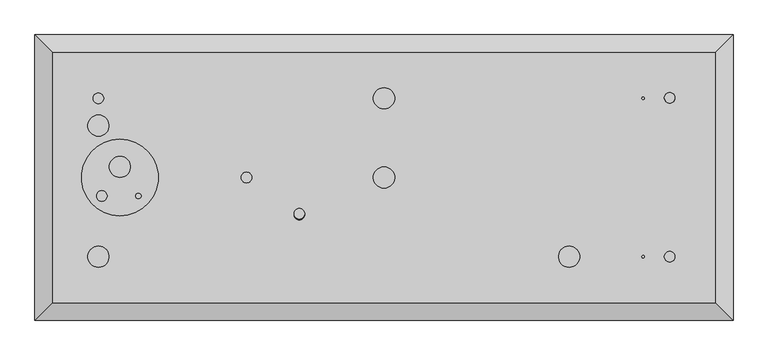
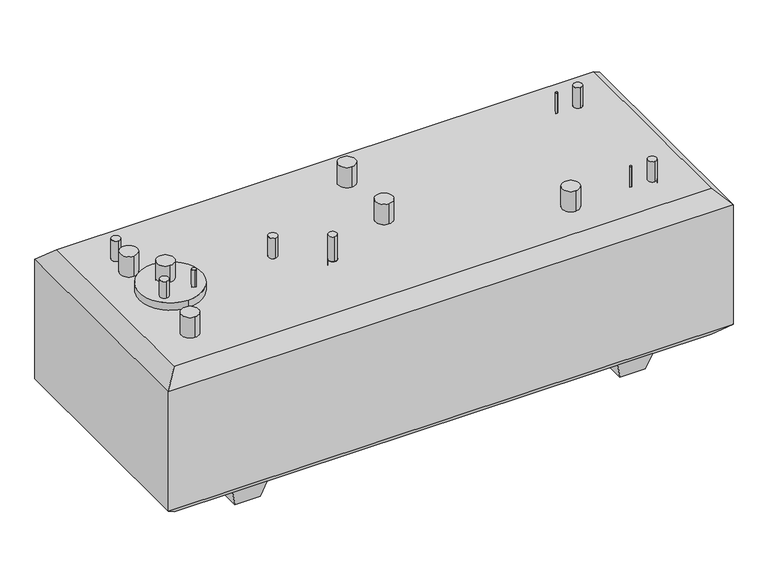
"""IFC4 building model written with IfcOpenShell, lengths in millimetres: proxy geometry, Convault Tank Family 88153104 : Convault Tank Family 88153104."""

from ifc_helpers import new_model, si_unit, point, frame, frame_2d, origin, origin_2d, place, context, project, spatial, polyline, circle_curve, trimmed, segment, composite_curve, outline, extrude, faceted_brep, source, transform, mapped, element, save
from ifc_brep_helpers import plane_surface, cylinder_surface, revolved_surface, advanced_brep


def generic_models_d43cf3dd(model_context):
    return source(origin(), model_context, "Body", "SolidModel", [
        extrude(outline(composite_curve([segment(trimmed(circle_curve(frame_2d((-1268.4125, 0.0)), 184.15), [point((-1268.4125, 184.15))], [point((-1268.4125, -184.15))], False, "CARTESIAN"), True, "CONTINUOUS"), segment(trimmed(circle_curve(frame_2d((-1268.4125, 0.0)), 184.15), [point((-1268.4125, -184.15))], [point((-1268.4125, 184.15))], False, "CARTESIAN"), True, "CONTINUOUS")], self_intersect=False)), frame((0.0, 0.0, 838.2), z_axis=(0.0, 0.0, 1.0), x_axis=(1.0, 0.0, 0.0)), (0.0, 0.0, 1.0), 224.7090569),
        advanced_brep(
        [(-406.4, -200.025, 1168.4), (-406.4, -149.225, 1168.4), (-431.7170956, -176.675529, 838.2), (-406.4, -149.225, 838.2), (-381.0829044, -176.675529, 838.2), (-406.4, -153.3260581, 838.2), (-406.4, -200.025, 1016.0), (-381.0829044, -176.675529, 1016.0), (-431.7170956, -176.675529, 1016.0), (-406.4, -153.3260581, 1016.0)],
        [
            (0, 1, circle_curve(frame((-406.4, -174.625, 1168.4), z_axis=(0.0, 0.0, 1.0), x_axis=(0.0, 1.0, 0.0)), 25.4)),
            (1, 0, circle_curve(frame((-406.4, -174.625, 1168.4), z_axis=(0.0, 0.0, 1.0), x_axis=(0.0, 1.0, 0.0)), 25.4)),
            (2, 3, circle_curve(frame((-406.4, -174.625, 838.2), z_axis=(0.0, 0.0, -1.0), x_axis=(0.0, 1.0, 0.0)), 25.4)),
            (3, 4, circle_curve(frame((-406.4, -174.625, 838.2), z_axis=(0.0, 0.0, -1.0), x_axis=(0.0, 1.0, 0.0)), 25.4)),
            (4, 5, circle_curve(frame((-406.4, -178.7260581, 838.2), z_axis=(0.0, 0.0, 1.0), x_axis=(0.0, -1.0, 0.0)), 25.4)),
            (5, 2, circle_curve(frame((-406.4, -178.7260581, 838.2), z_axis=(0.0, 0.0, 1.0), x_axis=(0.0, -1.0, 0.0)), 25.4)),
            (0, 6),
            (6, 7, circle_curve(frame((-406.4, -174.625, 1016.0), z_axis=(0.0, 0.0, 1.0), x_axis=(0.0, 1.0, 0.0)), 25.4)),
            (7, 4),
            (3, 1),
            (2, 8),
            (8, 6, circle_curve(frame((-406.4, -174.625, 1016.0), z_axis=(0.0, 0.0, 1.0), x_axis=(0.0, 1.0, 0.0)), 25.4)),
            (9, 7, circle_curve(frame((-406.4, -178.7260581, 1016.0), z_axis=(0.0, 0.0, -1.0), x_axis=(0.0, -1.0, 0.0)), 25.4)),
            (8, 9, circle_curve(frame((-406.4, -178.7260581, 1016.0), z_axis=(0.0, 0.0, -1.0), x_axis=(0.0, -1.0, 0.0)), 25.4)),
            (5, 9),
        ],
        [
            plane_surface(frame((-406.4, -149.225, 1168.4), z_axis=(0.0, 0.0, 1.0), x_axis=(-1.0, 0.0, 0.0))),
            plane_surface(frame((-406.4, -149.225, 838.2), z_axis=(0.0, 0.0, -1.0), x_axis=(1.0, 0.0, 0.0))),
            cylinder_surface(frame((-406.4, -174.625, 838.2), z_axis=(0.0, 0.0, 1.0), x_axis=(0.0, 1.0, 0.0)), 25.4),
            plane_surface(frame((-1371.6, 355.6, 1016.0), z_axis=(0.0, 0.0, -1.0), x_axis=(1.0, 0.0, 0.0))),
            revolved_surface(polyline([(-406.4, -204.1260581, 1016.0), (-406.4, -204.1260581, 838.2)]), (-406.4, -178.7260581, 838.2), (0.0, 0.0, 1.0)),
        ],
        [
            (0, [[1, 2]]),
            (1, [[3, 4, 5, 6]]),
            (2, [[-1, 7, 8, 9, -4, 10]]),
            (2, [[-2, -10, -3, 11, 12, -7]]),
            (3, [[13, -8, -12, 14]]),
            (4, [[15, -14, -11, -6]]),
            (4, [[-15, -5, -9, -13]]),
        ],
    ),
        advanced_brep(
        [(-1371.6, 406.4, 1143.0), (-1371.6, 355.6, 1143.0), (-1371.6, 406.4, 1016.0), (-1371.6, 355.6, 1016.0)],
        [
            (0, 1, circle_curve(frame((-1371.6, 381.0, 1143.0), z_axis=(0.0, 0.0, 1.0), x_axis=(0.0, -1.0, 0.0)), 25.4)),
            (1, 0, circle_curve(frame((-1371.6, 381.0, 1143.0), z_axis=(0.0, 0.0, 1.0), x_axis=(0.0, -1.0, 0.0)), 25.4)),
            (0, 2),
            (2, 3, circle_curve(frame((-1371.6, 381.0, 1016.0), z_axis=(0.0, 0.0, 1.0), x_axis=(0.0, -1.0, 0.0)), 25.4)),
            (3, 1),
            (3, 2, circle_curve(frame((-1371.6, 381.0, 1016.0), z_axis=(0.0, 0.0, 1.0), x_axis=(0.0, -1.0, 0.0)), 25.4)),
        ],
        [
            plane_surface(frame((-1371.6, 355.6, 1143.0), z_axis=(0.0, 0.0, 1.0), x_axis=(1.0, 0.0, 0.0))),
            cylinder_surface(frame((-1371.6, 381.0, 838.2), z_axis=(0.0, 0.0, 1.0), x_axis=(0.0, -1.0, 0.0)), 25.4),
            plane_surface(frame((-1371.6, 355.6, 1016.0), z_axis=(0.0, 0.0, -1.0), x_axis=(1.0, 0.0, 0.0))),
        ],
        [
            (0, [[1, 2]]),
            (1, [[-1, 3, 4, 5]]),
            (1, [[-2, -5, 6, -3]]),
            (2, [[-4, -6]]),
        ],
    ),
        advanced_brep(
        [(-1371.6, 300.0375, 1143.0), (-1371.6, 198.4375, 1143.0), (-1371.6, 300.0375, 1016.0), (-1371.6, 198.4375, 1016.0)],
        [
            (0, 1, circle_curve(frame((-1371.6, 249.2375, 1143.0), z_axis=(0.0, 0.0, 1.0), x_axis=(0.0, -1.0, 0.0)), 50.8)),
            (1, 0, circle_curve(frame((-1371.6, 249.2375, 1143.0), z_axis=(0.0, 0.0, 1.0), x_axis=(0.0, -1.0, 0.0)), 50.8)),
            (0, 2),
            (2, 3, circle_curve(frame((-1371.6, 249.2375, 1016.0), z_axis=(0.0, 0.0, 1.0), x_axis=(0.0, -1.0, 0.0)), 50.8)),
            (3, 1),
            (3, 2, circle_curve(frame((-1371.6, 249.2375, 1016.0), z_axis=(0.0, 0.0, 1.0), x_axis=(0.0, -1.0, 0.0)), 50.8)),
        ],
        [
            plane_surface(frame((-1371.6, 355.6, 1143.0), z_axis=(0.0, 0.0, 1.0), x_axis=(1.0, 0.0, 0.0))),
            cylinder_surface(frame((-1371.6, 249.2375, 838.2), z_axis=(0.0, 0.0, 1.0), x_axis=(0.0, -1.0, 0.0)), 50.8),
            plane_surface(frame((-1371.6, 355.6, 1016.0), z_axis=(0.0, 0.0, -1.0), x_axis=(1.0, 0.0, 0.0))),
        ],
        [
            (0, [[1, 2]]),
            (1, [[-1, 3, 4, 5]]),
            (1, [[-2, -5, 6, -3]]),
            (2, [[-4, -6]]),
        ],
    ),
        advanced_brep(
        [(-1371.6, -330.2, 1143.0), (-1371.6, -431.8, 1143.0), (-1371.6, -330.2, 1016.0), (-1371.6, -431.8, 1016.0)],
        [
            (0, 1, circle_curve(frame((-1371.6, -381.0, 1143.0), z_axis=(0.0, 0.0, 1.0), x_axis=(0.0, -1.0, 0.0)), 50.8)),
            (1, 0, circle_curve(frame((-1371.6, -381.0, 1143.0), z_axis=(0.0, 0.0, 1.0), x_axis=(0.0, -1.0, 0.0)), 50.8)),
            (0, 2),
            (2, 3, circle_curve(frame((-1371.6, -381.0, 1016.0), z_axis=(0.0, 0.0, 1.0), x_axis=(0.0, -1.0, 0.0)), 50.8)),
            (3, 1),
            (3, 2, circle_curve(frame((-1371.6, -381.0, 1016.0), z_axis=(0.0, 0.0, 1.0), x_axis=(0.0, -1.0, 0.0)), 50.8)),
        ],
        [
            plane_surface(frame((-1371.6, 355.6, 1143.0), z_axis=(0.0, 0.0, 1.0), x_axis=(1.0, 0.0, 0.0))),
            cylinder_surface(frame((-1371.6, -381.0, 838.2), z_axis=(0.0, 0.0, 1.0), x_axis=(0.0, -1.0, 0.0)), 50.8),
            plane_surface(frame((-1371.6, 355.6, 1016.0), z_axis=(0.0, 0.0, -1.0), x_axis=(1.0, 0.0, 0.0))),
        ],
        [
            (0, [[1, 2]]),
            (1, [[-1, 3, 4, 5]]),
            (1, [[-2, -5, 6, -3]]),
            (2, [[-4, -6]]),
        ],
    ),
        advanced_brep(
        [(-660.4, 25.4, 1143.0), (-660.4, -25.4, 1143.0), (-660.4, 25.4, 1016.0), (-660.4, -25.4, 1016.0)],
        [
            (0, 1, circle_curve(frame((-660.4, 0.0, 1143.0), z_axis=(0.0, 0.0, 1.0), x_axis=(0.0, -1.0, 0.0)), 25.4)),
            (1, 0, circle_curve(frame((-660.4, 0.0, 1143.0), z_axis=(0.0, 0.0, 1.0), x_axis=(0.0, -1.0, 0.0)), 25.4)),
            (0, 2),
            (2, 3, circle_curve(frame((-660.4, 0.0, 1016.0), z_axis=(0.0, 0.0, 1.0), x_axis=(0.0, -1.0, 0.0)), 25.4)),
            (3, 1),
            (3, 2, circle_curve(frame((-660.4, 0.0, 1016.0), z_axis=(0.0, 0.0, 1.0), x_axis=(0.0, -1.0, 0.0)), 25.4)),
        ],
        [
            plane_surface(frame((-1371.6, 355.6, 1143.0), z_axis=(0.0, 0.0, 1.0), x_axis=(1.0, 0.0, 0.0))),
            cylinder_surface(frame((-660.4, 0.0, 838.2), z_axis=(0.0, 0.0, 1.0), x_axis=(0.0, -1.0, 0.0)), 25.4),
            plane_surface(frame((-1371.6, 355.6, 1016.0), z_axis=(0.0, 0.0, -1.0), x_axis=(1.0, 0.0, 0.0))),
        ],
        [
            (0, [[1, 2]]),
            (1, [[-1, 3, 4, 5]]),
            (1, [[-2, -5, 6, -3]]),
            (2, [[-4, -6]]),
        ],
    ),
        advanced_brep(
        [(0.0, 50.8, 1143.0), (0.0, -50.8, 1143.0), (0.0, 50.8, 1016.0), (0.0, -50.8, 1016.0)],
        [
            (0, 1, circle_curve(frame((0.0, 0.0, 1143.0), z_axis=(0.0, 0.0, 1.0), x_axis=(0.0, -1.0, 0.0)), 50.8)),
            (1, 0, circle_curve(frame((0.0, 0.0, 1143.0), z_axis=(0.0, 0.0, 1.0), x_axis=(0.0, -1.0, 0.0)), 50.8)),
            (0, 2),
            (2, 3, circle_curve(frame((0.0, 0.0, 1016.0), z_axis=(0.0, 0.0, 1.0), x_axis=(0.0, -1.0, 0.0)), 50.8)),
            (3, 1),
            (3, 2, circle_curve(frame((0.0, 0.0, 1016.0), z_axis=(0.0, 0.0, 1.0), x_axis=(0.0, -1.0, 0.0)), 50.8)),
        ],
        [
            plane_surface(frame((-1371.6, 355.6, 1143.0), z_axis=(0.0, 0.0, 1.0), x_axis=(1.0, 0.0, 0.0))),
            cylinder_surface(frame((0.0, 0.0, 838.2), z_axis=(0.0, 0.0, 1.0), x_axis=(0.0, -1.0, 0.0)), 50.8),
            plane_surface(frame((-1371.6, 355.6, 1016.0), z_axis=(0.0, 0.0, -1.0), x_axis=(1.0, 0.0, 0.0))),
        ],
        [
            (0, [[1, 2]]),
            (1, [[-1, 3, 4, 5]]),
            (1, [[-2, -5, 6, -3]]),
            (2, [[-4, -6]]),
        ],
    ),
        advanced_brep(
        [(0.0, 431.8, 1143.0), (0.0, 330.2, 1143.0), (0.0, 431.8, 838.2), (0.0, 330.2, 838.2)],
        [
            (0, 1, circle_curve(frame((0.0, 381.0, 1143.0), z_axis=(0.0, 0.0, 1.0), x_axis=(0.0, -1.0, 0.0)), 50.8)),
            (1, 0, circle_curve(frame((0.0, 381.0, 1143.0), z_axis=(0.0, 0.0, 1.0), x_axis=(0.0, -1.0, 0.0)), 50.8)),
            (2, 3, circle_curve(frame((0.0, 381.0, 838.2), z_axis=(0.0, 0.0, -1.0), x_axis=(0.0, -1.0, 0.0)), 50.8)),
            (3, 2, circle_curve(frame((0.0, 381.0, 838.2), z_axis=(0.0, 0.0, -1.0), x_axis=(0.0, -1.0, 0.0)), 50.8)),
            (0, 2),
            (3, 1),
        ],
        [
            plane_surface(frame((-1371.6, 355.6, 1143.0), z_axis=(0.0, 0.0, 1.0), x_axis=(1.0, 0.0, 0.0))),
            plane_surface(frame((-1371.6, 355.6, 838.2), z_axis=(0.0, 0.0, -1.0), x_axis=(-1.0, 0.0, 0.0))),
            cylinder_surface(frame((0.0, 381.0, 838.2), z_axis=(0.0, 0.0, 1.0), x_axis=(0.0, -1.0, 0.0)), 50.8),
        ],
        [
            (0, [[1, 2]]),
            (1, [[3, 4]]),
            (2, [[-1, 5, -4, 6]]),
            (2, [[-2, -6, -3, -5]]),
        ],
    ),
        advanced_brep(
        [(1371.6, -355.6, 1143.0), (1371.6, -406.4, 1143.0), (1371.6, -355.6, 1016.0), (1371.6, -406.4, 1016.0)],
        [
            (0, 1, circle_curve(frame((1371.6, -381.0, 1143.0), z_axis=(0.0, 0.0, 1.0), x_axis=(0.0, -1.0, 0.0)), 25.4)),
            (1, 0, circle_curve(frame((1371.6, -381.0, 1143.0), z_axis=(0.0, 0.0, 1.0), x_axis=(0.0, -1.0, 0.0)), 25.4)),
            (0, 2),
            (2, 3, circle_curve(frame((1371.6, -381.0, 1016.0), z_axis=(0.0, 0.0, 1.0), x_axis=(0.0, -1.0, 0.0)), 25.4)),
            (3, 1),
            (3, 2, circle_curve(frame((1371.6, -381.0, 1016.0), z_axis=(0.0, 0.0, 1.0), x_axis=(0.0, -1.0, 0.0)), 25.4)),
        ],
        [
            plane_surface(frame((-1371.6, 355.6, 1143.0), z_axis=(0.0, 0.0, 1.0), x_axis=(1.0, 0.0, 0.0))),
            cylinder_surface(frame((1371.6, -381.0, 838.2), z_axis=(0.0, 0.0, 1.0), x_axis=(0.0, -1.0, 0.0)), 25.4),
            plane_surface(frame((-1371.6, 355.6, 1016.0), z_axis=(0.0, 0.0, -1.0), x_axis=(1.0, 0.0, 0.0))),
        ],
        [
            (0, [[1, 2]]),
            (1, [[-1, 3, 4, 5]]),
            (1, [[-2, -5, 6, -3]]),
            (2, [[-4, -6]]),
        ],
    ),
        advanced_brep(
        [(889.0, -330.2, 1143.0), (889.0, -431.8, 1143.0), (889.0, -330.2, 1016.0), (889.0, -431.8, 1016.0)],
        [
            (0, 1, circle_curve(frame((889.0, -381.0, 1143.0), z_axis=(0.0, 0.0, 1.0), x_axis=(0.0, -1.0, 0.0)), 50.8)),
            (1, 0, circle_curve(frame((889.0, -381.0, 1143.0), z_axis=(0.0, 0.0, 1.0), x_axis=(0.0, -1.0, 0.0)), 50.8)),
            (0, 2),
            (2, 3, circle_curve(frame((889.0, -381.0, 1016.0), z_axis=(0.0, 0.0, 1.0), x_axis=(0.0, -1.0, 0.0)), 50.8)),
            (3, 1),
            (3, 2, circle_curve(frame((889.0, -381.0, 1016.0), z_axis=(0.0, 0.0, 1.0), x_axis=(0.0, -1.0, 0.0)), 50.8)),
        ],
        [
            plane_surface(frame((-1371.6, 355.6, 1143.0), z_axis=(0.0, 0.0, 1.0), x_axis=(1.0, 0.0, 0.0))),
            cylinder_surface(frame((889.0, -381.0, 838.2), z_axis=(0.0, 0.0, 1.0), x_axis=(0.0, -1.0, 0.0)), 50.8),
            plane_surface(frame((-1371.6, 355.6, 1016.0), z_axis=(0.0, 0.0, -1.0), x_axis=(1.0, 0.0, 0.0))),
        ],
        [
            (0, [[1, 2]]),
            (1, [[-1, 3, 4, 5]]),
            (1, [[-2, -5, 6, -3]]),
            (2, [[-4, -6]]),
        ],
    ),
        advanced_brep(
        [(1371.6, 409.0209307, 1143.0), (1371.6, 358.2209307, 1143.0), (1371.6, 409.0209307, 838.2), (1396.9976351, 383.274328, 838.2), (1371.6, 408.3277254, 838.2), (1346.2023649, 383.274328, 838.2), (1371.6, 408.3277254, 1016.0), (1396.9976351, 383.274328, 1016.0), (1371.6, 358.2209307, 1016.0), (1346.2023649, 383.274328, 1016.0)],
        [
            (0, 1, circle_curve(frame((1371.6, 383.6209307, 1143.0), z_axis=(0.0, 0.0, 1.0), x_axis=(0.0, -1.0, 0.0)), 25.4)),
            (1, 0, circle_curve(frame((1371.6, 383.6209307, 1143.0), z_axis=(0.0, 0.0, 1.0), x_axis=(0.0, -1.0, 0.0)), 25.4)),
            (2, 3, circle_curve(frame((1371.6, 383.6209307, 838.2), z_axis=(0.0, 0.0, -1.0), x_axis=(0.0, -1.0, 0.0)), 25.4)),
            (3, 4, circle_curve(frame((1371.6, 382.9277254, 838.2), z_axis=(0.0, 0.0, 1.0), x_axis=(0.0, -1.0, 0.0)), 25.4)),
            (4, 5, circle_curve(frame((1371.6, 382.9277254, 838.2), z_axis=(0.0, 0.0, 1.0), x_axis=(0.0, -1.0, 0.0)), 25.4)),
            (5, 2, circle_curve(frame((1371.6, 383.6209307, 838.2), z_axis=(0.0, 0.0, -1.0), x_axis=(0.0, -1.0, 0.0)), 25.4)),
            (6, 7, circle_curve(frame((1371.6, 382.9277254, 1016.0), z_axis=(0.0, 0.0, -1.0), x_axis=(0.0, -1.0, 0.0)), 25.4)),
            (7, 8, circle_curve(frame((1371.6, 383.6209307, 1016.0), z_axis=(0.0, 0.0, -1.0), x_axis=(0.0, -1.0, 0.0)), 25.4)),
            (8, 9, circle_curve(frame((1371.6, 383.6209307, 1016.0), z_axis=(0.0, 0.0, -1.0), x_axis=(0.0, -1.0, 0.0)), 25.4)),
            (9, 6, circle_curve(frame((1371.6, 382.9277254, 1016.0), z_axis=(0.0, 0.0, -1.0), x_axis=(0.0, -1.0, 0.0)), 25.4)),
            (0, 2),
            (5, 9),
            (8, 1),
            (7, 3),
            (4, 6),
        ],
        [
            plane_surface(frame((-1371.6, 355.6, 1143.0), z_axis=(0.0, 0.0, 1.0), x_axis=(1.0, 0.0, 0.0))),
            plane_surface(frame((-1371.6, 355.6, 838.2), z_axis=(0.0, 0.0, -1.0), x_axis=(-1.0, 0.0, 0.0))),
            plane_surface(frame((-1371.6, 355.6, 1016.0), z_axis=(0.0, 0.0, -1.0), x_axis=(1.0, 0.0, 0.0))),
            cylinder_surface(frame((1371.6, 383.6209307, 838.2), z_axis=(0.0, 0.0, 1.0), x_axis=(0.0, -1.0, 0.0)), 25.4),
            revolved_surface(polyline([(1371.6, 357.5277254, 1016.0), (1371.6, 357.5277254, 838.2)]), (1371.6, 382.9277254, 838.2), (0.0, 0.0, 1.0)),
        ],
        [
            (0, [[1, 2]]),
            (1, [[3, 4, 5, 6]]),
            (2, [[7, 8, 9, 10]]),
            (3, [[-1, 11, -6, 12, -9, 13]]),
            (3, [[-2, -13, -8, 14, -3, -11]]),
            (4, [[15, -10, -12, -5]]),
            (4, [[-15, -4, -14, -7]]),
        ],
    ),
        advanced_brep(
        [(1244.6, -375.2455346, 1143.0), (1244.6, -386.7544654, 1143.0), (1244.6, -375.2455346, 838.2), (1244.6, -386.7544654, 838.2)],
        [
            (0, 1, circle_curve(frame((1244.6, -381.0, 1143.0), z_axis=(0.0, 0.0, 1.0), x_axis=(0.0, -1.0, 0.0)), 5.7544654)),
            (1, 0, circle_curve(frame((1244.6, -381.0, 1143.0), z_axis=(0.0, 0.0, 1.0), x_axis=(0.0, -1.0, 0.0)), 5.7544654)),
            (2, 3, circle_curve(frame((1244.6, -381.0, 838.2), z_axis=(0.0, 0.0, -1.0), x_axis=(0.0, -1.0, 0.0)), 5.7544654)),
            (3, 2, circle_curve(frame((1244.6, -381.0, 838.2), z_axis=(0.0, 0.0, -1.0), x_axis=(0.0, -1.0, 0.0)), 5.7544654)),
            (0, 2),
            (3, 1),
        ],
        [
            plane_surface(frame((-1371.6, 355.6, 1143.0), z_axis=(0.0, 0.0, 1.0), x_axis=(1.0, 0.0, 0.0))),
            plane_surface(frame((-1371.6, 355.6, 838.2), z_axis=(0.0, 0.0, -1.0), x_axis=(-1.0, 0.0, 0.0))),
            cylinder_surface(frame((1244.6, -381.0, 838.2), z_axis=(0.0, 0.0, 1.0), x_axis=(0.0, -1.0, 0.0)), 5.7544654),
        ],
        [
            (0, [[1, 2]]),
            (1, [[3, 4]]),
            (2, [[-1, 5, -4, 6]]),
            (2, [[-2, -6, -3, -5]]),
        ],
    ),
        advanced_brep(
        [(1244.6, 386.7544654, 1143.0), (1244.6, 375.2455346, 1143.0), (1244.6, 386.7544654, 838.2), (1244.6, 375.2455346, 838.2)],
        [
            (0, 1, circle_curve(frame((1244.6, 381.0, 1143.0), z_axis=(0.0, 0.0, 1.0), x_axis=(0.0, -1.0, 0.0)), 5.7544654)),
            (1, 0, circle_curve(frame((1244.6, 381.0, 1143.0), z_axis=(0.0, 0.0, 1.0), x_axis=(0.0, -1.0, 0.0)), 5.7544654)),
            (2, 3, circle_curve(frame((1244.6, 381.0, 838.2), z_axis=(0.0, 0.0, -1.0), x_axis=(0.0, -1.0, 0.0)), 5.7544654)),
            (3, 2, circle_curve(frame((1244.6, 381.0, 838.2), z_axis=(0.0, 0.0, -1.0), x_axis=(0.0, -1.0, 0.0)), 5.7544654)),
            (0, 2),
            (3, 1),
        ],
        [
            plane_surface(frame((-1371.6, 355.6, 1143.0), z_axis=(0.0, 0.0, 1.0), x_axis=(1.0, 0.0, 0.0))),
            plane_surface(frame((-1371.6, 355.6, 838.2), z_axis=(0.0, 0.0, -1.0), x_axis=(-1.0, 0.0, 0.0))),
            cylinder_surface(frame((1244.6, 381.0, 838.2), z_axis=(0.0, 0.0, 1.0), x_axis=(0.0, -1.0, 0.0)), 5.7544654),
        ],
        [
            (0, [[1, 2]]),
            (1, [[3, 4]]),
            (2, [[-1, 5, -4, 6]]),
            (2, [[-2, -6, -3, -5]]),
        ],
    ),
        extrude(outline(polyline([(1524.0, 533.4), (1524.0, -533.4), (-1524.0, -533.4), (-1524.0, 533.4), (1524.0, 533.4)]), holes=[composite_curve([segment(trimmed(circle_curve(frame_2d((-1371.6, 381.0)), 25.4), [point((-1371.6, 406.4))], [point((-1371.6, 355.6))], True, "CARTESIAN"), True, "CONTINUOUS"), segment(trimmed(circle_curve(frame_2d((-1371.6, 381.0)), 25.4), [point((-1371.6, 355.6))], [point((-1371.6, 406.4))], True, "CARTESIAN"), True, "CONTINUOUS")], self_intersect=False), composite_curve([segment(trimmed(circle_curve(frame_2d((-1371.6, 249.2375)), 50.8), [point((-1371.6, 300.0375))], [point((-1371.6, 198.4375))], True, "CARTESIAN"), True, "CONTINUOUS"), segment(trimmed(circle_curve(frame_2d((-1371.6, 249.2375)), 50.8), [point((-1371.6, 198.4375))], [point((-1371.6, 300.0375))], True, "CARTESIAN"), True, "CONTINUOUS")], self_intersect=False), composite_curve([segment(trimmed(circle_curve(frame_2d((-1371.6, -381.0)), 50.8), [point((-1371.6, -330.2))], [point((-1371.6, -431.8))], True, "CARTESIAN"), True, "CONTINUOUS"), segment(trimmed(circle_curve(frame_2d((-1371.6, -381.0)), 50.8), [point((-1371.6, -431.8))], [point((-1371.6, -330.2))], True, "CARTESIAN"), True, "CONTINUOUS")], self_intersect=False), composite_curve([segment(trimmed(circle_curve(frame_2d((-660.4, 0.0)), 25.4), [point((-660.4, 25.4))], [point((-660.4, -25.4))], True, "CARTESIAN"), True, "CONTINUOUS"), segment(trimmed(circle_curve(frame_2d((-660.4, 0.0)), 25.4), [point((-660.4, -25.4))], [point((-660.4, 25.4))], True, "CARTESIAN"), True, "CONTINUOUS")], self_intersect=False), composite_curve([segment(trimmed(circle_curve(origin_2d(), 50.8), [point((0.0, 50.8))], [point((0.0, -50.8))], True, "CARTESIAN"), True, "CONTINUOUS"), segment(trimmed(circle_curve(origin_2d(), 50.8), [point((0.0, -50.8))], [point((0.0, 50.8))], True, "CARTESIAN"), True, "CONTINUOUS")], self_intersect=False), composite_curve([segment(trimmed(circle_curve(frame_2d((1371.6, -381.0)), 25.4), [point((1371.6, -355.6))], [point((1371.6, -406.4))], True, "CARTESIAN"), True, "CONTINUOUS"), segment(trimmed(circle_curve(frame_2d((1371.6, -381.0)), 25.4), [point((1371.6, -406.4))], [point((1371.6, -355.6))], True, "CARTESIAN"), True, "CONTINUOUS")], self_intersect=False), composite_curve([segment(trimmed(circle_curve(frame_2d((889.0, -381.0)), 50.8), [point((889.0, -330.2))], [point((889.0, -431.8))], True, "CARTESIAN"), True, "CONTINUOUS"), segment(trimmed(circle_curve(frame_2d((889.0, -381.0)), 50.8), [point((889.0, -431.8))], [point((889.0, -330.2))], True, "CARTESIAN"), True, "CONTINUOUS")], self_intersect=False), composite_curve([segment(trimmed(circle_curve(frame_2d((-406.4, -178.7260581)), 25.4), [point((-406.4, -153.3260581))], [point((-406.4, -204.1260581))], True, "CARTESIAN"), True, "CONTINUOUS"), segment(trimmed(circle_curve(frame_2d((-406.4, -178.7260581)), 25.4), [point((-406.4, -204.1260581))], [point((-406.4, -153.3260581))], True, "CARTESIAN"), True, "CONTINUOUS")], self_intersect=False), composite_curve([segment(trimmed(circle_curve(frame_2d((1371.6, 382.9277254)), 25.4), [point((1371.6, 408.3277254))], [point((1371.6, 357.5277254))], True, "CARTESIAN"), True, "CONTINUOUS"), segment(trimmed(circle_curve(frame_2d((1371.6, 382.9277254)), 25.4), [point((1371.6, 357.5277254))], [point((1371.6, 408.3277254))], True, "CARTESIAN"), True, "CONTINUOUS")], self_intersect=False), composite_curve([segment(trimmed(circle_curve(frame_2d((-1268.4125, 0.0)), 6.35), [point((-1268.4125, 6.35))], [point((-1268.4125, -6.35))], True, "CARTESIAN"), True, "CONTINUOUS"), segment(trimmed(circle_curve(frame_2d((-1268.4125, 0.0)), 6.35), [point((-1268.4125, -6.35))], [point((-1268.4125, 6.35))], True, "CARTESIAN"), True, "CONTINUOUS")], self_intersect=False)]), frame((0.0, 0.0, 838.2), z_axis=(0.0, 0.0, 1.0), x_axis=(1.0, 0.0, 0.0)), (0.0, 0.0, 1.0), 25.4),
        extrude(outline(composite_curve([segment(trimmed(circle_curve(frame_2d((-1268.4125, 50.8)), 50.8), [point((-1268.4125, 101.6))], [point((-1268.4125, 0.0))], False, "CARTESIAN"), True, "CONTINUOUS"), segment(trimmed(circle_curve(frame_2d((-1268.4125, 50.8)), 50.8), [point((-1268.4125, 0.0))], [point((-1268.4125, 101.6))], False, "CARTESIAN"), True, "CONTINUOUS")], self_intersect=False)), frame((0.0, 0.0, 838.2), z_axis=(0.0, 0.0, 1.0), x_axis=(1.0, 0.0, 0.0)), (0.0, 0.0, 1.0), 330.2),
        extrude(outline(composite_curve([segment(trimmed(circle_curve(frame_2d((-1355.3050835, -88.9)), 25.4), [point((-1355.3050835, -63.5))], [point((-1355.3050835, -114.3))], False, "CARTESIAN"), True, "CONTINUOUS"), segment(trimmed(circle_curve(frame_2d((-1355.3050835, -88.9)), 25.4), [point((-1355.3050835, -114.3))], [point((-1355.3050835, -63.5))], False, "CARTESIAN"), True, "CONTINUOUS")], self_intersect=False)), frame((0.0, 0.0, 838.2), z_axis=(0.0, 0.0, 1.0), x_axis=(1.0, 0.0, 0.0)), (0.0, 0.0, 1.0), 330.2),
        extrude(outline(composite_curve([segment(trimmed(circle_curve(frame_2d((-1179.5125, -88.9)), 12.7), [point((-1179.5125, -76.2))], [point((-1179.5125, -101.6))], False, "CARTESIAN"), True, "CONTINUOUS"), segment(trimmed(circle_curve(frame_2d((-1179.5125, -88.9)), 12.7), [point((-1179.5125, -101.6))], [point((-1179.5125, -76.2))], False, "CARTESIAN"), True, "CONTINUOUS")], self_intersect=False)), frame((0.0, 0.0, 838.2), z_axis=(0.0, 0.0, 1.0), x_axis=(1.0, 0.0, 0.0)), (0.0, 0.0, 1.0), 330.2),
        extrude(outline(polyline([(1498.6, -533.4), (1498.6, 533.4), (1524.0, 533.4), (1524.0, -533.4), (1498.6, -533.4)])), frame((0.0, 0.0, 254.0), z_axis=(0.0, 0.0, 1.0), x_axis=(1.0, 0.0, 0.0)), (0.0, 0.0, 1.0), 609.6),
        extrude(outline(polyline([(-1524.0, -533.4), (-1524.0, 533.4), (-1498.6, 533.4), (-1498.6, -533.4), (-1524.0, -533.4)])), frame((0.0, 0.0, 254.0), z_axis=(0.0, 0.0, 1.0), x_axis=(1.0, 0.0, 0.0)), (0.0, 0.0, 1.0), 609.6),
        extrude(outline(polyline([(-1524.0, 533.4), (1524.0, 533.4), (1524.0, 508.0), (-1524.0, 508.0), (-1524.0, 533.4)])), frame((0.0, 0.0, 254.0), z_axis=(0.0, 0.0, 1.0), x_axis=(1.0, 0.0, 0.0)), (0.0, 0.0, 1.0), 609.6),
        extrude(outline(polyline([(1524.0, 533.4), (1524.0, -533.4), (-1524.0, -533.4), (-1524.0, 533.4), (1524.0, 533.4)])), frame((0.0, 0.0, 254.0), z_axis=(0.0, 0.0, 1.0), x_axis=(1.0, 0.0, 0.0)), (0.0, 0.0, 1.0), 25.4),
        extrude(outline(polyline([(-1524.0, -508.0), (1524.0, -508.0), (1524.0, -533.4), (-1524.0, -533.4), (-1524.0, -508.0)])), frame((0.0, 0.0, 254.0), z_axis=(0.0, 0.0, 1.0), x_axis=(1.0, 0.0, 0.0)), (0.0, 0.0, 1.0), 609.6),
        faceted_brep([(1219.2, 576.3777681, 0.0), (1219.2, -576.3777681, 0.0), (1066.8, -576.3777681, 0.0), (1066.8, 576.3777681, 0.0), (1039.9277681, -603.25, 101.6), (1039.9277681, 603.25, 101.6), (1246.0722319, -603.25, 101.6), (1246.0722319, 603.25, 101.6)], [[[0, 1, 2, 3]], [[3, 2, 4, 5]], [[5, 4, 6, 7]], [[1, 0, 7, 6]], [[2, 1, 6, 4]], [[0, 3, 5, 7]]]),
        faceted_brep([(-1219.2, -576.3777681, 0.0), (-1066.8, -576.3777681, 0.0), (-1039.9277681, -603.25, 101.6), (-1246.0722319, -603.25, 101.6), (-1066.8, 576.3777681, 0.0), (-1219.2, 576.3777681, 0.0), (-1246.0722319, 603.25, 101.6), (-1039.9277681, 603.25, 101.6)], [[[0, 1, 2, 3]], [[4, 5, 6, 7]], [[4, 1, 0, 5]], [[5, 0, 3, 6]], [[6, 3, 2, 7]], [[1, 4, 7, 2]]]),
        advanced_brep(
        [(-1593.85, 603.25, 1016.0), (-1593.85, -603.25, 1016.0), (1593.85, -603.25, 1016.0), (1593.85, 603.25, 1016.0), (-1371.6, 355.6, 1016.0), (-1371.6, 406.4, 1016.0), (-1371.6, 198.4375, 1016.0), (-1371.6, 300.0375, 1016.0), (-1371.6, -431.8, 1016.0), (-1371.6, -330.2, 1016.0), (-660.4, -25.4, 1016.0), (-660.4, 25.4, 1016.0), (0.0, -50.8, 1016.0), (0.0, 50.8, 1016.0), (1371.6, -406.4, 1016.0), (1371.6, -355.6, 1016.0), (889.0, -431.8, 1016.0), (889.0, -330.2, 1016.0), (-406.4, -204.1260581, 1016.0), (-406.4, -153.3260581, 1016.0), (1371.6, 357.5277254, 1016.0), (1371.6, 408.3277254, 1016.0), (-1268.4125, -6.35, 1016.0), (-1268.4125, 6.35, 1016.0), (-1593.85, -603.25, 101.6), (-1593.85, 603.25, 101.6), (1593.85, 603.25, 101.6), (1593.85, -603.25, 101.6), (1676.4, 685.8, 933.45), (1676.4, 685.8, 184.15), (-1676.4, 685.8, 184.15), (-1676.4, 685.8, 933.45), (-1676.4, -685.8, 184.15), (-1676.4, -685.8, 933.45), (1676.4, -685.8, 184.15), (1676.4, -685.8, 933.45), (-1498.6, -533.4, 863.6), (-1498.6, -533.4, 254.0), (-1498.6, 533.4, 254.0), (-1498.6, 533.4, 863.6), (1524.0, -533.4, 863.6), (1524.0, 533.4, 863.6), (1524.0, 533.4, 254.0), (1524.0, -533.4, 254.0), (-1371.6, 406.4, 863.6), (-1371.6, 355.6, 863.6), (-1371.6, 300.0375, 863.6), (-1371.6, 198.4375, 863.6), (-1371.6, -330.2, 863.6), (-1371.6, -431.8, 863.6), (-660.4, 25.4, 863.6), (-660.4, -25.4, 863.6), (0.0, 50.8, 863.6), (0.0, -50.8, 863.6), (1371.6, -355.6, 863.6), (1371.6, -406.4, 863.6), (889.0, -330.2, 863.6), (889.0, -431.8, 863.6), (-406.4, -153.3260581, 863.6), (-406.4, -204.1260581, 863.6), (1371.6, 408.3277254, 863.6), (1371.6, 357.5277254, 863.6), (-1268.4125, 6.35, 863.6), (-1268.4125, -6.35, 863.6)],
        [
            (0, 1),
            (1, 2),
            (2, 3),
            (3, 0),
            (4, 5, circle_curve(frame((-1371.6, 381.0, 1016.0), z_axis=(0.0, 0.0, -1.0), x_axis=(0.0, -1.0, 0.0)), 25.4)),
            (5, 4, circle_curve(frame((-1371.6, 381.0, 1016.0), z_axis=(0.0, 0.0, -1.0), x_axis=(0.0, -1.0, 0.0)), 25.4)),
            (6, 7, circle_curve(frame((-1371.6, 249.2375, 1016.0), z_axis=(0.0, 0.0, -1.0), x_axis=(0.0, -1.0, 0.0)), 50.8)),
            (7, 6, circle_curve(frame((-1371.6, 249.2375, 1016.0), z_axis=(0.0, 0.0, -1.0), x_axis=(0.0, -1.0, 0.0)), 50.8)),
            (8, 9, circle_curve(frame((-1371.6, -381.0, 1016.0), z_axis=(0.0, 0.0, -1.0), x_axis=(0.0, -1.0, 0.0)), 50.8)),
            (9, 8, circle_curve(frame((-1371.6, -381.0, 1016.0), z_axis=(0.0, 0.0, -1.0), x_axis=(0.0, -1.0, 0.0)), 50.8)),
            (10, 11, circle_curve(frame((-660.4, 0.0, 1016.0), z_axis=(0.0, 0.0, -1.0), x_axis=(0.0, -1.0, 0.0)), 25.4)),
            (11, 10, circle_curve(frame((-660.4, 0.0, 1016.0), z_axis=(0.0, 0.0, -1.0), x_axis=(0.0, -1.0, 0.0)), 25.4)),
            (12, 13, circle_curve(frame((0.0, 0.0, 1016.0), z_axis=(0.0, 0.0, -1.0), x_axis=(0.0, -1.0, 0.0)), 50.8)),
            (13, 12, circle_curve(frame((0.0, 0.0, 1016.0), z_axis=(0.0, 0.0, -1.0), x_axis=(0.0, -1.0, 0.0)), 50.8)),
            (14, 15, circle_curve(frame((1371.6, -381.0, 1016.0), z_axis=(0.0, 0.0, -1.0), x_axis=(0.0, -1.0, 0.0)), 25.4)),
            (15, 14, circle_curve(frame((1371.6, -381.0, 1016.0), z_axis=(0.0, 0.0, -1.0), x_axis=(0.0, -1.0, 0.0)), 25.4)),
            (16, 17, circle_curve(frame((889.0, -381.0, 1016.0), z_axis=(0.0, 0.0, -1.0), x_axis=(0.0, -1.0, 0.0)), 50.8)),
            (17, 16, circle_curve(frame((889.0, -381.0, 1016.0), z_axis=(0.0, 0.0, -1.0), x_axis=(0.0, -1.0, 0.0)), 50.8)),
            (18, 19, circle_curve(frame((-406.4, -178.7260581, 1016.0), z_axis=(0.0, 0.0, -1.0), x_axis=(0.0, -1.0, 0.0)), 25.4)),
            (19, 18, circle_curve(frame((-406.4, -178.7260581, 1016.0), z_axis=(0.0, 0.0, -1.0), x_axis=(0.0, -1.0, 0.0)), 25.4)),
            (20, 21, circle_curve(frame((1371.6, 382.9277254, 1016.0), z_axis=(0.0, 0.0, -1.0), x_axis=(0.0, -1.0, 0.0)), 25.4)),
            (21, 20, circle_curve(frame((1371.6, 382.9277254, 1016.0), z_axis=(0.0, 0.0, -1.0), x_axis=(0.0, -1.0, 0.0)), 25.4)),
            (22, 23, circle_curve(frame((-1268.4125, 0.0, 1016.0), z_axis=(0.0, 0.0, -1.0), x_axis=(0.0, -1.0, 0.0)), 6.35)),
            (23, 22, circle_curve(frame((-1268.4125, 0.0, 1016.0), z_axis=(0.0, 0.0, -1.0), x_axis=(0.0, -1.0, 0.0)), 6.35)),
            (24, 25),
            (25, 26),
            (26, 27),
            (27, 24),
            (28, 29),
            (29, 30),
            (30, 31),
            (31, 28),
            (30, 32),
            (32, 33),
            (33, 31),
            (32, 34),
            (34, 35),
            (35, 33),
            (28, 35),
            (34, 29),
            (28, 3),
            (2, 35),
            (34, 27),
            (26, 29),
            (30, 25),
            (24, 32),
            (33, 1),
            (0, 31),
            (36, 37),
            (37, 38),
            (38, 39),
            (39, 36),
            (40, 41),
            (41, 42),
            (42, 43),
            (43, 40),
            (39, 41),
            (40, 36),
            (44, 45, circle_curve(frame((-1371.6, 381.0, 863.6), z_axis=(0.0, 0.0, 1.0), x_axis=(0.0, -1.0, 0.0)), 25.4)),
            (45, 44, circle_curve(frame((-1371.6, 381.0, 863.6), z_axis=(0.0, 0.0, 1.0), x_axis=(0.0, -1.0, 0.0)), 25.4)),
            (46, 47, circle_curve(frame((-1371.6, 249.2375, 863.6), z_axis=(0.0, 0.0, 1.0), x_axis=(0.0, -1.0, 0.0)), 50.8)),
            (47, 46, circle_curve(frame((-1371.6, 249.2375, 863.6), z_axis=(0.0, 0.0, 1.0), x_axis=(0.0, -1.0, 0.0)), 50.8)),
            (48, 49, circle_curve(frame((-1371.6, -381.0, 863.6), z_axis=(0.0, 0.0, 1.0), x_axis=(0.0, -1.0, 0.0)), 50.8)),
            (49, 48, circle_curve(frame((-1371.6, -381.0, 863.6), z_axis=(0.0, 0.0, 1.0), x_axis=(0.0, -1.0, 0.0)), 50.8)),
            (50, 51, circle_curve(frame((-660.4, 0.0, 863.6), z_axis=(0.0, 0.0, 1.0), x_axis=(0.0, -1.0, 0.0)), 25.4)),
            (51, 50, circle_curve(frame((-660.4, 0.0, 863.6), z_axis=(0.0, 0.0, 1.0), x_axis=(0.0, -1.0, 0.0)), 25.4)),
            (52, 53, circle_curve(frame((0.0, 0.0, 863.6), z_axis=(0.0, 0.0, 1.0), x_axis=(0.0, -1.0, 0.0)), 50.8)),
            (53, 52, circle_curve(frame((0.0, 0.0, 863.6), z_axis=(0.0, 0.0, 1.0), x_axis=(0.0, -1.0, 0.0)), 50.8)),
            (54, 55, circle_curve(frame((1371.6, -381.0, 863.6), z_axis=(0.0, 0.0, 1.0), x_axis=(0.0, -1.0, 0.0)), 25.4)),
            (55, 54, circle_curve(frame((1371.6, -381.0, 863.6), z_axis=(0.0, 0.0, 1.0), x_axis=(0.0, -1.0, 0.0)), 25.4)),
            (56, 57, circle_curve(frame((889.0, -381.0, 863.6), z_axis=(0.0, 0.0, 1.0), x_axis=(0.0, -1.0, 0.0)), 50.8)),
            (57, 56, circle_curve(frame((889.0, -381.0, 863.6), z_axis=(0.0, 0.0, 1.0), x_axis=(0.0, -1.0, 0.0)), 50.8)),
            (58, 59, circle_curve(frame((-406.4, -178.7260581, 863.6), z_axis=(0.0, 0.0, 1.0), x_axis=(0.0, -1.0, 0.0)), 25.4)),
            (59, 58, circle_curve(frame((-406.4, -178.7260581, 863.6), z_axis=(0.0, 0.0, 1.0), x_axis=(0.0, -1.0, 0.0)), 25.4)),
            (60, 61, circle_curve(frame((1371.6, 382.9277254, 863.6), z_axis=(0.0, 0.0, 1.0), x_axis=(0.0, -1.0, 0.0)), 25.4)),
            (61, 60, circle_curve(frame((1371.6, 382.9277254, 863.6), z_axis=(0.0, 0.0, 1.0), x_axis=(0.0, -1.0, 0.0)), 25.4)),
            (62, 63, circle_curve(frame((-1268.4125, 0.0, 863.6), z_axis=(0.0, 0.0, 1.0), x_axis=(0.0, -1.0, 0.0)), 6.35)),
            (63, 62, circle_curve(frame((-1268.4125, 0.0, 863.6), z_axis=(0.0, 0.0, 1.0), x_axis=(0.0, -1.0, 0.0)), 6.35)),
            (38, 42),
            (37, 43),
            (44, 5),
            (4, 45),
            (46, 7),
            (6, 47),
            (48, 9),
            (8, 49),
            (50, 11),
            (10, 51),
            (52, 13),
            (12, 53),
            (54, 15),
            (14, 55),
            (56, 17),
            (16, 57),
            (58, 19),
            (18, 59),
            (60, 21),
            (20, 61),
            (62, 23),
            (22, 63),
        ],
        [
            plane_surface(frame((-1676.4, 685.8, 1016.0), z_axis=(0.0, 0.0, 1.0), x_axis=(-1.0, 0.0, 0.0))),
            plane_surface(frame((-1676.4, 685.8, 101.6), z_axis=(0.0, 0.0, -1.0), x_axis=(1.0, 0.0, 0.0))),
            plane_surface(frame((1676.4, 685.8, 1016.0), z_axis=(0.0, 1.0, 0.0), x_axis=(0.0, 0.0, -1.0))),
            plane_surface(frame((-1676.4, 685.8, 1016.0), z_axis=(-1.0, 0.0, 0.0), x_axis=(0.0, 0.0, -1.0))),
            plane_surface(frame((-1676.4, -685.8, 1016.0), z_axis=(0.0, -1.0, 0.0), x_axis=(0.0, 0.0, -1.0))),
            plane_surface(frame((1676.4, -685.8, 1016.0), z_axis=(1.0, 0.0, 0.0), x_axis=(0.0, 0.0, -1.0))),
            plane_surface(frame((1676.4, 685.8, 933.45), z_axis=(0.7071067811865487, 0.0, 0.7071067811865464), x_axis=(0.0, -1.0, 0.0))),
            plane_surface(frame((1593.85, 685.8, 101.6), z_axis=(0.7071067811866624, 0.0, -0.7071067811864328), x_axis=(0.0, -1.0, 0.0))),
            plane_surface(frame((-1676.4, 685.8, 184.15), z_axis=(-0.7071067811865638, 0.0, -0.7071067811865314), x_axis=(0.0, -1.0, 0.0))),
            plane_surface(frame((-1593.85, 685.8, 1016.0), z_axis=(-0.7071067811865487, 0.0, 0.7071067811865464), x_axis=(0.0, -1.0, 0.0))),
            plane_surface(frame((1676.4, -685.8, 933.45), z_axis=(0.0, -0.7071067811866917, 0.7071067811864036), x_axis=(-1.0, 0.0, 0.0))),
            plane_surface(frame((1676.4, 603.25, 1016.0), z_axis=(0.0, 0.7071067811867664, 0.7071067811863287), x_axis=(-1.0, 0.0, 0.0))),
            plane_surface(frame((1676.4, -603.25, 101.6), z_axis=(0.0, -0.7071067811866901, -0.7071067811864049), x_axis=(-1.0, 0.0, 0.0))),
            plane_surface(frame((1676.4, 685.8, 184.15), z_axis=(0.0, 0.7071067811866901, -0.7071067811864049), x_axis=(-1.0, 0.0, 0.0))),
            plane_surface(frame((-1498.6, 533.4, 863.6), z_axis=(1.0, 0.0, 0.0), x_axis=(0.0, 1.0, 0.0))),
            plane_surface(frame((1524.0, 533.4, 863.6), z_axis=(-1.0, 0.0, 0.0), x_axis=(0.0, -1.0, 0.0))),
            plane_surface(frame((-1498.6, -533.4, 863.6), z_axis=(0.0, 0.0, -1.0), x_axis=(1.0, 0.0, 0.0))),
            plane_surface(frame((-1498.6, 533.4, 863.6), z_axis=(0.0, -1.0, 0.0), x_axis=(1.0, 0.0, 0.0))),
            plane_surface(frame((-1498.6, 533.4, 254.0), z_axis=(0.0, 0.0, 1.0), x_axis=(1.0, 0.0, 0.0))),
            plane_surface(frame((-1498.6, -533.4, 254.0), z_axis=(0.0, 1.0, 0.0), x_axis=(1.0, 0.0, 0.0))),
            revolved_surface(polyline([(-1371.6, 355.6, 1016.0), (-1371.6, 355.6, 863.6)]), (-1371.6, 381.0, 838.2), (0.0, 0.0, 1.0)),
            revolved_surface(polyline([(-1371.6, 198.4375, 1016.0), (-1371.6, 198.4375, 863.6)]), (-1371.6, 249.2375, 838.2), (0.0, 0.0, 1.0)),
            revolved_surface(polyline([(-1371.6, -431.8, 1016.0), (-1371.6, -431.8, 863.6)]), (-1371.6, -381.0, 838.2), (0.0, 0.0, 1.0)),
            revolved_surface(polyline([(-660.4, -25.4, 1016.0), (-660.4, -25.4, 863.6)]), (-660.4, 0.0, 838.2), (0.0, 0.0, 1.0)),
            revolved_surface(polyline([(0.0, -50.8, 1016.0), (0.0, -50.8, 863.6)]), (0.0, 0.0, 838.2), (0.0, 0.0, 1.0)),
            revolved_surface(polyline([(1371.6, -406.4, 1016.0), (1371.6, -406.4, 863.6)]), (1371.6, -381.0, 838.2), (0.0, 0.0, 1.0)),
            revolved_surface(polyline([(889.0, -431.8, 1016.0), (889.0, -431.8, 863.6)]), (889.0, -381.0, 838.2), (0.0, 0.0, 1.0)),
            revolved_surface(polyline([(-406.4, -204.1260581, 1016.0), (-406.4, -204.1260581, 863.6)]), (-406.4, -178.7260581, 838.2), (0.0, 0.0, 1.0)),
            revolved_surface(polyline([(1371.6, 357.5277254, 1016.0), (1371.6, 357.5277254, 863.6)]), (1371.6, 382.9277254, 838.2), (0.0, 0.0, 1.0)),
            revolved_surface(polyline([(-1268.4125, -6.35, 1016.0), (-1268.4125, -6.35, 863.6)]), (-1268.4125, 0.0, 838.2), (0.0, 0.0, 1.0)),
        ],
        [
            (0, [[1, 2, 3, 4], [5, 6], [7, 8], [9, 10], [11, 12], [13, 14], [15, 16], [17, 18], [19, 20], [21, 22], [23, 24]]),
            (1, [[25, 26, 27, 28]]),
            (2, [[29, 30, 31, 32]]),
            (3, [[-31, 33, 34, 35]]),
            (4, [[-34, 36, 37, 38]]),
            (5, [[-29, 39, -37, 40]]),
            (6, [[-39, 41, -3, 42]]),
            (7, [[-40, 43, -27, 44]]),
            (8, [[-33, 45, -25, 46]]),
            (9, [[-35, 47, -1, 48]]),
            (10, [[-2, -47, -38, -42]]),
            (11, [[-4, -41, -32, -48]]),
            (12, [[-28, -43, -36, -46]]),
            (13, [[-26, -45, -30, -44]]),
            (14, [[49, 50, 51, 52]]),
            (15, [[53, 54, 55, 56]]),
            (16, [[-52, 57, -53, 58], [59, 60], [61, 62], [63, 64], [65, 66], [67, 68], [69, 70], [71, 72], [73, 74], [75, 76], [77, 78]]),
            (17, [[-51, 79, -54, -57]]),
            (18, [[-50, 80, -55, -79]]),
            (19, [[-49, -58, -56, -80]]),
            (20, [[81, -5, 82, -59]]),
            (20, [[-81, -60, -82, -6]]),
            (21, [[83, -7, 84, -61]]),
            (21, [[-83, -62, -84, -8]]),
            (22, [[85, -9, 86, -63]]),
            (22, [[-85, -64, -86, -10]]),
            (23, [[87, -11, 88, -65]]),
            (23, [[-87, -66, -88, -12]]),
            (24, [[89, -13, 90, -67]]),
            (24, [[-89, -68, -90, -14]]),
            (25, [[91, -15, 92, -69]]),
            (25, [[-91, -70, -92, -16]]),
            (26, [[93, -17, 94, -71]]),
            (26, [[-93, -72, -94, -18]]),
            (27, [[95, -19, 96, -73]]),
            (27, [[-95, -74, -96, -20]]),
            (28, [[97, -21, 98, -75]]),
            (28, [[-97, -76, -98, -22]]),
            (29, [[99, -23, 100, -77]]),
            (29, [[-99, -78, -100, -24]]),
        ],
    ),
    ])


if __name__ == "__main__":
    model = new_model("IFC4")
    model_context = context("Model", 3, world=origin())
    ifc_project = project(units=[si_unit("LENGTHUNIT", "METRE", prefix="MILLI")], contexts=[model_context])
    site = spatial("IfcSite", under=ifc_project)
    building = spatial("IfcBuilding", under=site)
    placement = place(None, origin())
    generic_models_shape = generic_models_d43cf3dd(model_context)
    element("IfcBuildingElementProxy", 1, Name="Convault Tank Family 88153104 : Convault Tank Family 88153104", ObjectType="Convault Tank Family 88153104 : Convault Tank Family 88153104", at=placement, inside=building, context=model_context, shape_type="MappedRepresentation", body=[
        mapped(generic_models_shape, transform((0.0, 0.0, 0.0), x_axis=(1.0, 0.0, 0.0), y_axis=(0.0, 1.0, 0.0), z_axis=(0.0, 0.0, 1.0))),
    ])
    save(model, "model.ifc")
